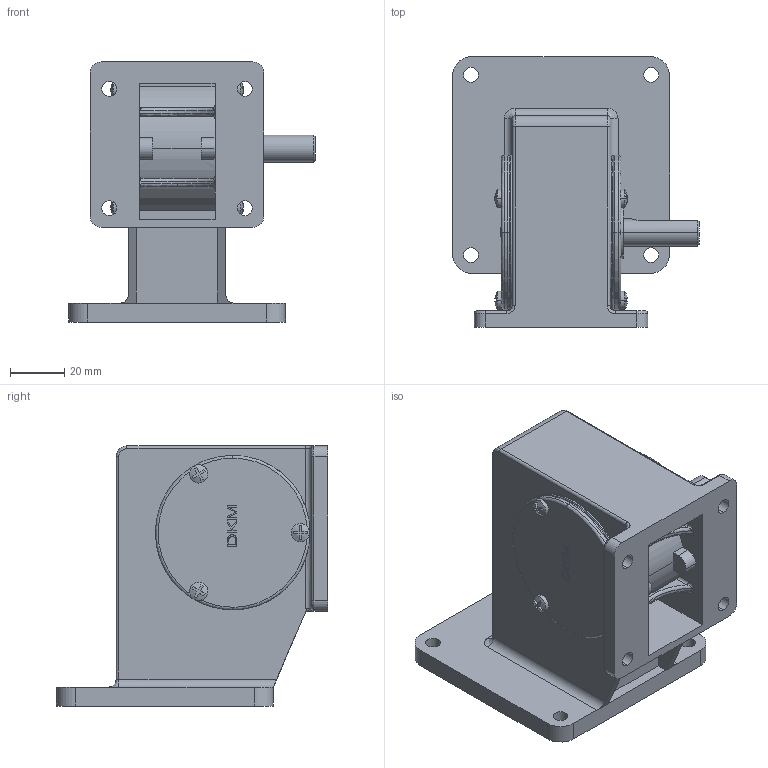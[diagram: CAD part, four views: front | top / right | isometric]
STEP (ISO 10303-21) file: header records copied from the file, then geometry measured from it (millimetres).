
FILE_DESCRIPTION (( 'STEP AP203' ), '1' );
FILE_NAME ('(12-15) 8WD¡àBL.STEP', '2022-01-12T01:16:37', ( '' ), ( '' ), 'SwSTEP 2.0', 'SolidWorks 2018', '' );
FILE_SCHEMA (( 'CONFIG_CONTROL_DESIGN' ));
Length unit declared in the file: millimetre
Products named in the file (1): (12-15) 8WD｡滷L
Bounding box: 91 x 100 x 96 mm (x, y, z)
Volume: 228938.6 mm3; surface area: 52406.1 mm2
Topology: 1 solids, 1 shells, 344 faces, 907 edges, 578 vertices
Faces by surface type: plane 179, cylinder 103, bspline 55, torus 4, cone 3
Entity records: 13915 total; most frequent: CARTESIAN_POINT 5719, ORIENTED_EDGE 1814, DIRECTION 1541, EDGE_CURVE 907, VERTEX_POINT 578, AXIS2_PLACEMENT_3D 525, LINE 491, VECTOR 491
